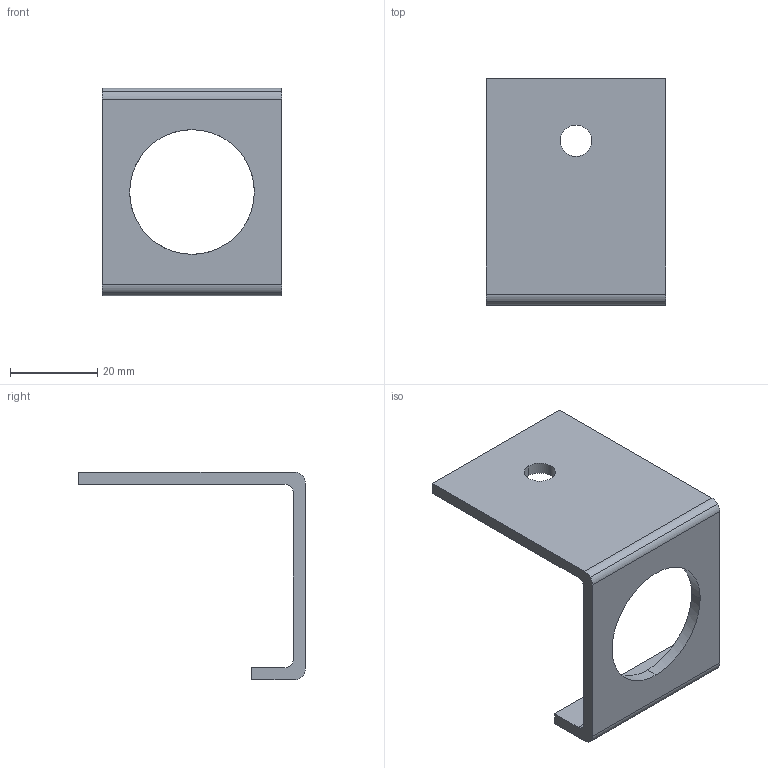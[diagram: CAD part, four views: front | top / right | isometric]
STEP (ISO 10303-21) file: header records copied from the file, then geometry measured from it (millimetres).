
FILE_DESCRIPTION(('TurboCAD Mac Pro'),'Build 980');
FILE_NAME('P2521-75.stp',' ',(''),(''),'ACIS Interop','IMSI','TurboCAD Mac Pro BY IMSI, INCORPORATED');
FILE_SCHEMA(('automotive_design'));
Length unit declared in the file: inch
Products named in the file (1): 1
Bounding box: 41.27 x 51.98 x 47.61 mm (x, y, z)
Volume: 10216.3 mm3; surface area: 8383.9 mm2
Topology: 1 solids, 1 shells, 26 faces, 72 edges, 48 vertices
Faces by surface type: plane 10, cylinder 8, bspline 8
Entity records: 1220 total; most frequent: CARTESIAN_POINT 251, ORIENTED_EDGE 144, DIRECTION 110, EDGE_CURVE 72, VERTEX_POINT 48, STYLED_ITEM 47, PRESENTATION_STYLE_ASSIGNMENT 47, COLOUR_RGB 47
